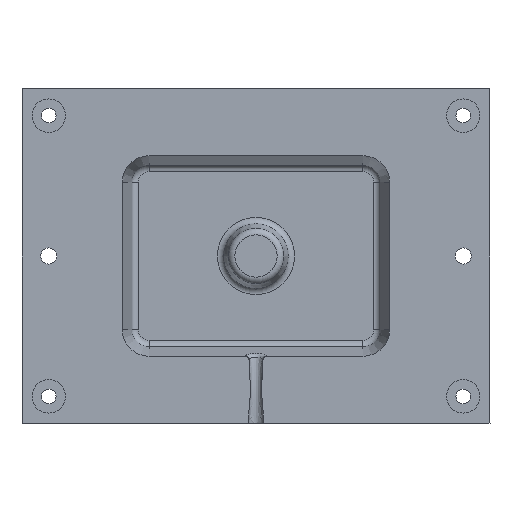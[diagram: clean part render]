
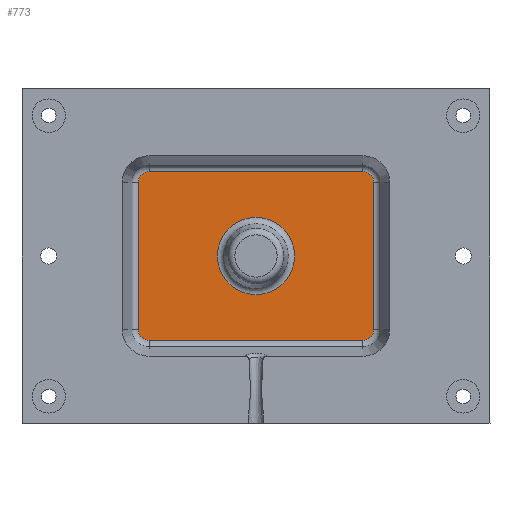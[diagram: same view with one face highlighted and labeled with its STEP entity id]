
A CAD part, left-side view. The second image highlights one B-rep face of the part: STEP entity #773.
In plain terms, the highlighted planar face has unit normal (-1, 0, 0).
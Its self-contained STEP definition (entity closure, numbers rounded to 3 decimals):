
#687=CARTESIAN_POINT('',(-5.,78.063,-90.563));
#688=DIRECTION('',(-1.0,0.0,0.));
#689=DIRECTION('',(0.,1.0,0.));
#690=AXIS2_PLACEMENT_3D('',#687,#688,#689);
#691=PLANE('',#690);
#692=CARTESIAN_POINT('',(-5.,86.875,-105.));
#693=VERTEX_POINT('',#692);
#694=CARTESIAN_POINT('',(-5.,95.,-96.875));
#695=VERTEX_POINT('',#694);
#696=CARTESIAN_POINT('',(-5.,95.,-105.));
#697=DIRECTION('',(-1.0,0.,0.));
#698=DIRECTION('',(0.,-1.0,0.));
#699=AXIS2_PLACEMENT_3D('',#696,#697,#698);
#700=CIRCLE('',#699,8.125);
#701=EDGE_CURVE('',#693,#695,#700,.T.);
#702=ORIENTED_EDGE('',*,*,#701,.T.);
#703=CARTESIAN_POINT('',(-5.,255.,-96.875));
#704=VERTEX_POINT('',#703);
#705=CARTESIAN_POINT('',(-5.,95.,-96.875));
#706=DIRECTION('',(0.0,1.0,0.0));
#707=VECTOR('',#706,1.0);
#708=LINE('',#705,#707);
#709=EDGE_CURVE('',#695,#704,#708,.T.);
#710=ORIENTED_EDGE('',*,*,#709,.T.);
#711=CARTESIAN_POINT('',(-5.,263.125,-105.));
#712=VERTEX_POINT('',#711);
#713=CARTESIAN_POINT('',(-5.,255.,-105.));
#714=DIRECTION('',(-1.0,0.,0.));
#715=DIRECTION('',(0.,0.,1.0));
#716=AXIS2_PLACEMENT_3D('',#713,#714,#715);
#717=CIRCLE('',#716,8.125);
#718=EDGE_CURVE('',#704,#712,#717,.T.);
#719=ORIENTED_EDGE('',*,*,#718,.T.);
#720=CARTESIAN_POINT('',(-5.,263.125,-215.));
#721=VERTEX_POINT('',#720);
#722=CARTESIAN_POINT('',(-5.,263.125,-105.));
#723=DIRECTION('',(0.,0.,-1.0));
#724=VECTOR('',#723,1.0);
#725=LINE('',#722,#724);
#726=EDGE_CURVE('',#712,#721,#725,.T.);
#727=ORIENTED_EDGE('',*,*,#726,.T.);
#728=CARTESIAN_POINT('',(-5.,255.,-223.125));
#729=VERTEX_POINT('',#728);
#730=CARTESIAN_POINT('',(-5.,255.,-215.));
#731=DIRECTION('',(-1.0,0.,0.));
#732=DIRECTION('',(0.,1.0,0.));
#733=AXIS2_PLACEMENT_3D('',#730,#731,#732);
#734=CIRCLE('',#733,8.125);
#735=EDGE_CURVE('',#721,#729,#734,.T.);
#736=ORIENTED_EDGE('',*,*,#735,.T.);
#737=CARTESIAN_POINT('',(-5.,95.,-223.125));
#738=VERTEX_POINT('',#737);
#739=CARTESIAN_POINT('',(-5.,255.,-223.125));
#740=DIRECTION('',(0.0,-1.0,0.));
#741=VECTOR('',#740,1.0);
#742=LINE('',#739,#741);
#743=EDGE_CURVE('',#729,#738,#742,.T.);
#744=ORIENTED_EDGE('',*,*,#743,.T.);
#745=CARTESIAN_POINT('',(-5.,86.875,-215.));
#746=VERTEX_POINT('',#745);
#747=CARTESIAN_POINT('',(-5.,95.,-215.));
#748=DIRECTION('',(-1.0,0.,0.));
#749=DIRECTION('',(0.,0.,-1.0));
#750=AXIS2_PLACEMENT_3D('',#747,#748,#749);
#751=CIRCLE('',#750,8.125);
#752=EDGE_CURVE('',#738,#746,#751,.T.);
#753=ORIENTED_EDGE('',*,*,#752,.T.);
#754=CARTESIAN_POINT('',(-5.,86.875,-215.));
#755=DIRECTION('',(0.0,0.0,1.0));
#756=VECTOR('',#755,1.0);
#757=LINE('',#754,#756);
#758=EDGE_CURVE('',#746,#693,#757,.T.);
#759=ORIENTED_EDGE('',*,*,#758,.T.);
#760=EDGE_LOOP('',(#702,#710,#719,#727,#736,#744,#753,#759));
#761=FACE_OUTER_BOUND('',#760,.T.);
#762=CARTESIAN_POINT('',(-5.,203.837,-160.));
#763=VERTEX_POINT('',#762);
#764=CARTESIAN_POINT('',(-5.,175.,-160.));
#765=DIRECTION('',(1.0,0.,0.));
#766=DIRECTION('',(0.,1.0,0.));
#767=AXIS2_PLACEMENT_3D('',#764,#765,#766);
#768=CIRCLE('',#767,28.837);
#769=EDGE_CURVE('',#763,#763,#768,.T.);
#770=ORIENTED_EDGE('',*,*,#769,.T.);
#771=EDGE_LOOP('',(#770));
#772=FACE_BOUND('',#771,.T.);
#773=ADVANCED_FACE('',(#761,#772),#691,.T.);
